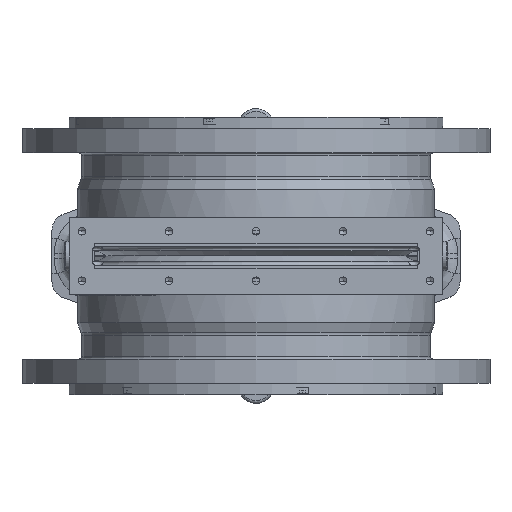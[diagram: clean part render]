
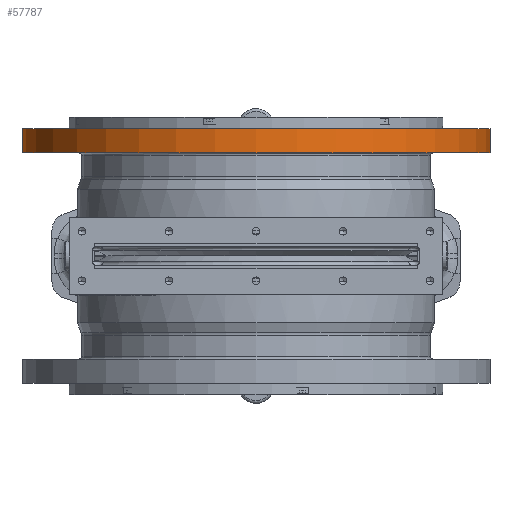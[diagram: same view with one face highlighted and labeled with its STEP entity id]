
A CAD part, front view. The second image highlights one B-rep face of the part: STEP entity #57787.
In plain terms, the highlighted cylindrical face has radius 203 mm (diameter 406 mm), a full revolution.
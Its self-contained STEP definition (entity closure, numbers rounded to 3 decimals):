
#2812=CYLINDRICAL_SURFACE('',#61637,203.);
#6740=LINE('',#95316,#10222);
#10222=VECTOR('',#70939,203.);
#13479=FACE_OUTER_BOUND('',#17172,.T.);
#17172=EDGE_LOOP('',(#42959,#42960,#42961,#42962,#42963));
#20303=CIRCLE('',#60741,203.);
#20715=CIRCLE('',#61620,203.);
#20716=CIRCLE('',#61621,203.);
#23964=VERTEX_POINT('',#85207);
#25523=VERTEX_POINT('',#95270);
#25524=VERTEX_POINT('',#95271);
#29821=EDGE_CURVE('',#23964,#23964,#20303,.T.);
#32009=EDGE_CURVE('',#25523,#25524,#20715,.T.);
#32010=EDGE_CURVE('',#25524,#25523,#20716,.T.);
#32032=EDGE_CURVE('',#23964,#25524,#6740,.T.);
#42959=ORIENTED_EDGE('',*,*,#29821,.T.);
#42960=ORIENTED_EDGE('',*,*,#32032,.T.);
#42961=ORIENTED_EDGE('',*,*,#32009,.F.);
#42962=ORIENTED_EDGE('',*,*,#32010,.F.);
#42963=ORIENTED_EDGE('',*,*,#32032,.F.);
#57787=ADVANCED_FACE('',(#13479),#2812,.T.);
#60741=AXIS2_PLACEMENT_3D('',#85208,#67883,#67884);
#61620=AXIS2_PLACEMENT_3D('',#95272,#70887,#70888);
#61621=AXIS2_PLACEMENT_3D('',#95273,#70889,#70890);
#61637=AXIS2_PLACEMENT_3D('',#95315,#70937,#70938);
#67883=DIRECTION('center_axis',(0.,0.,
-1.));
#67884=DIRECTION('ref_axis',(0.,1.,0.));
#70887=DIRECTION('center_axis',(0.,0.,
-1.));
#70888=DIRECTION('ref_axis',(-1.,0.,0.));
#70889=DIRECTION('center_axis',(0.,0.,
-1.));
#70890=DIRECTION('ref_axis',(-1.,0.,0.));
#70937=DIRECTION('center_axis',(0.,0.,
-1.));
#70938=DIRECTION('ref_axis',(0.,1.,0.));
#70939=DIRECTION('',(0.,0.,-1.));
#85207=CARTESIAN_POINT('',(0.,-203.,110.5));
#85208=CARTESIAN_POINT('Origin',(0.,0.,
110.5));
#95270=CARTESIAN_POINT('',(0.,203.,89.5));
#95271=CARTESIAN_POINT('',(0.,-203.,89.5));
#95272=CARTESIAN_POINT('Origin',(0.,0.,
89.5));
#95273=CARTESIAN_POINT('Origin',(0.,0.,
89.5));
#95315=CARTESIAN_POINT('Origin',(0.,0.,
101.5));
#95316=CARTESIAN_POINT('',(0.,-203.,101.5));
